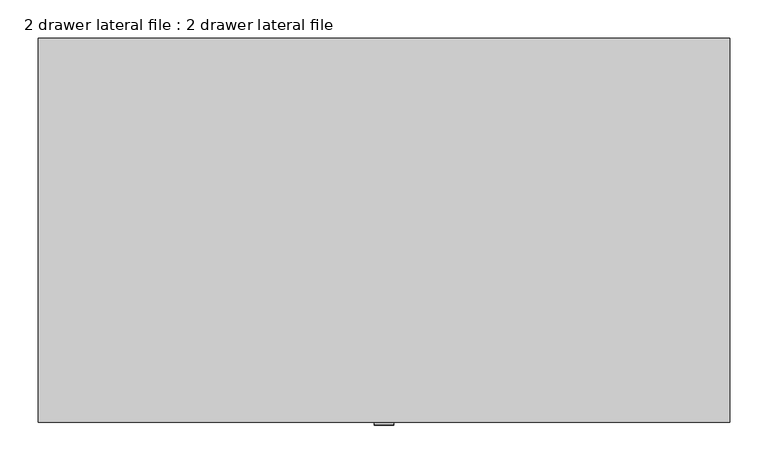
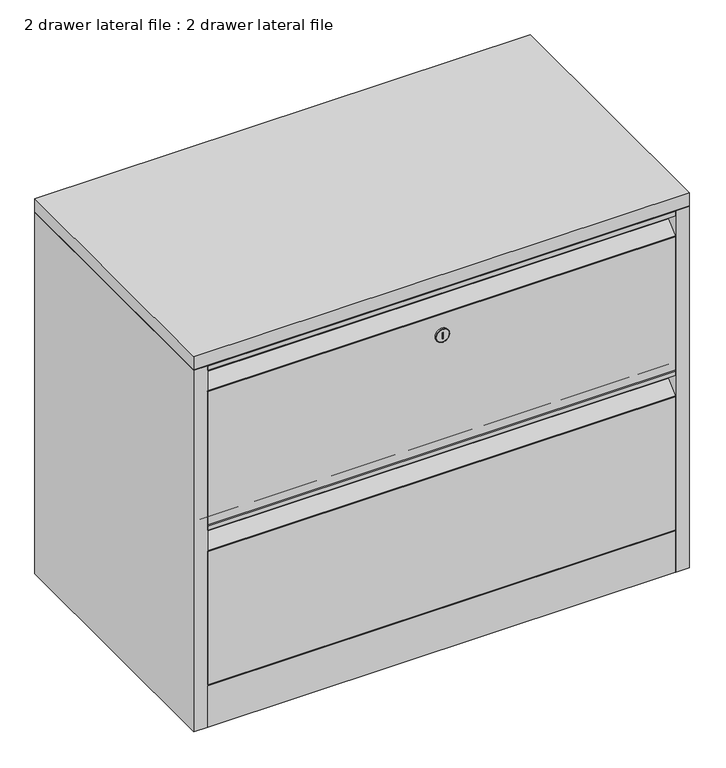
"""IFC4 building model written with IfcOpenShell, lengths in millimetres: furniture geometry, 2 drawer lateral file : 2 drawer lateral file."""

from ifc_helpers import new_model, si_unit, point, frame, frame_2d, origin, origin_with_axes, place, context, project, spatial, polyline, circle_curve, ellipse_curve, trimmed, segment, composite_curve, outline, extrude, source, transform, mapped, element, save
from ifc_brep_helpers import plane_surface, cylinder_surface, revolved_surface, advanced_brep


def furniture_2_drawer_lateral_file_2_drawer_lateral_file_d51224f1(model_context):
    return source(origin(), model_context, "Body", "SolidModel", [
        extrude(outline(composite_curve([segment(polyline([(-225.0, 695.125), (-225.0, 666.4983613)]), True, "CONTINUOUS"), segment(trimmed(circle_curve(frame_2d((-228.1021897, 666.4983613)), 3.1021897), [point((-225.0, 666.4983613))], [point((-226.0167258, 664.2017504))], False, "CARTESIAN"), True, "CONTINUOUS"), segment(polyline([(-226.0167258, 664.2017504), (-247.3097129, 644.866409)]), True, "CONTINUOUS"), segment(trimmed(circle_curve(frame_2d((-245.8938261, 643.3071678)), 2.1061739), [point((-247.3097129, 644.866409))], [point((-248.0, 643.3071678))], True, "CARTESIAN"), True, "CONTINUOUS"), segment(polyline([(-248.0, 643.3071678), (-248.0, 390.925), (-225.0, 390.925), (-225.0, 388.925), (-250.0, 388.925), (-250.0, 644.318895)]), True, "CONTINUOUS"), segment(trimmed(circle_curve(frame_2d((-248.1791457, 644.318895)), 1.8208543), [point((-250.0, 644.318895))], [point((-249.4032249, 645.6669085))], False, "CARTESIAN"), True, "CONTINUOUS"), segment(polyline([(-249.4032249, 645.6669085), (-227.5662702, 665.496206)]), True, "CONTINUOUS"), segment(trimmed(circle_curve(frame_2d((-228.727779, 666.7753141)), 1.727779), [point((-227.5662702, 665.496206))], [point((-227.0, 666.7753141))], True, "CARTESIAN"), True, "CONTINUOUS"), segment(polyline([(-227.0, 666.7753141), (-227.0, 691.0874619)]), True, "CONTINUOUS"), segment(trimmed(circle_curve(frame_2d((-229.0375381, 691.0874619)), 2.0375381), [point((-227.0, 691.0874619))], [point((-229.0375381, 693.125))], True, "CARTESIAN"), True, "CONTINUOUS"), segment(polyline([(-229.0375381, 693.125), (-248.0, 693.125), (-248.0, 685.125), (-250.0, 685.125), (-250.0, 693.2644549)]), True, "CONTINUOUS"), segment(trimmed(circle_curve(frame_2d((-248.1394549, 693.2644549)), 1.8605451), [point((-250.0, 693.2644549))], [point((-248.1394549, 695.125))], False, "CARTESIAN"), True, "CONTINUOUS"), segment(polyline([(-248.1394549, 695.125), (-225.0, 695.125)]), True, "CONTINUOUS")], self_intersect=False)), frame((-425.0, 0.0, 0.0), z_axis=(1.0, 0.0, 0.0), x_axis=(0.0, 1.0, 0.0)), (0.0, 0.0, 1.0), 850.0),
        extrude(outline(composite_curve([segment(polyline([(-225.0, 388.25), (-225.0, 359.6233613)]), True, "CONTINUOUS"), segment(trimmed(circle_curve(frame_2d((-228.1021897, 359.6233613)), 3.1021897), [point((-225.0, 359.6233613))], [point((-226.0167258, 357.3267504))], False, "CARTESIAN"), True, "CONTINUOUS"), segment(polyline([(-226.0167258, 357.3267504), (-247.3097129, 337.991409)]), True, "CONTINUOUS"), segment(trimmed(circle_curve(frame_2d((-245.8938261, 336.4321678)), 2.1061739), [point((-247.3097129, 337.991409))], [point((-248.0, 336.4321678))], True, "CARTESIAN"), True, "CONTINUOUS"), segment(polyline([(-248.0, 336.4321678), (-248.0, 84.05), (-225.0, 84.05), (-225.0, 82.05), (-250.0, 82.05), (-250.0, 337.443895)]), True, "CONTINUOUS"), segment(trimmed(circle_curve(frame_2d((-248.1791457, 337.443895)), 1.8208543), [point((-250.0, 337.443895))], [point((-249.4032249, 338.7919085))], False, "CARTESIAN"), True, "CONTINUOUS"), segment(polyline([(-249.4032249, 338.7919085), (-227.5662702, 358.621206)]), True, "CONTINUOUS"), segment(trimmed(circle_curve(frame_2d((-228.727779, 359.9003141)), 1.727779), [point((-227.5662702, 358.621206))], [point((-227.0, 359.9003141))], True, "CARTESIAN"), True, "CONTINUOUS"), segment(polyline([(-227.0, 359.9003141), (-227.0, 384.2124619)]), True, "CONTINUOUS"), segment(trimmed(circle_curve(frame_2d((-229.0375381, 384.2124619)), 2.0375381), [point((-227.0, 384.2124619))], [point((-229.0375381, 386.25))], True, "CARTESIAN"), True, "CONTINUOUS"), segment(polyline([(-229.0375381, 386.25), (-248.0, 386.25), (-248.0, 378.25), (-250.0, 378.25), (-250.0, 386.3894549)]), True, "CONTINUOUS"), segment(trimmed(circle_curve(frame_2d((-248.1394549, 386.3894549)), 1.8605451), [point((-250.0, 386.3894549))], [point((-248.1394549, 388.25))], False, "CARTESIAN"), True, "CONTINUOUS"), segment(polyline([(-248.1394549, 388.25), (-225.0, 388.25)]), True, "CONTINUOUS")], self_intersect=False)), frame((-425.0, 0.0, 0.0), z_axis=(1.0, 0.0, 0.0), x_axis=(0.0, 1.0, 0.0)), (0.0, 0.0, 1.0), 850.0),
        extrude(outline(polyline([(1.0273848, -250.0), (-0.9726152, -250.0), (-0.9726152, -150.0), (1.0273848, -150.0), (1.0273848, -250.0)])), frame((0.0, 0.0, 599.6206655), z_axis=(0.0, 0.0, 1.0), x_axis=(1.0, 0.0, 0.0)), (0.0, 0.0, 1.0), 12.0),
        advanced_brep(
        [(-11.5526635, -254.0, 605.5526635), (11.5526635, -254.0, 605.5526635), (1.0273848, -254.0, 611.6206655), (1.0273848, -254.0, 599.6206655), (-0.9726152, -254.0, 599.6206655), (-0.9726152, -254.0, 611.6206655), (-12.5526635, -250.0, 605.5526635), (12.5526635, -250.0, 605.5526635), (1.0273848, -250.0, 611.6206655), (-0.9726152, -250.0, 611.6206655), (-0.9726152, -250.0, 599.6206655), (1.0273848, -250.0, 599.6206655), (12.5526635, -253.0, 605.5526635), (-12.5526635, -253.0, 605.5526635)],
        [
            (0, 1, circle_curve(frame((0.0, -254.0, 605.5526635), z_axis=(0.0, -1.0, 0.0), x_axis=(1.0, 0.0, 0.0)), 11.5526635)),
            (1, 0, circle_curve(frame((0.0, -254.0, 605.5526635), z_axis=(0.0, -1.0, 0.0), x_axis=(-1.0, 0.0, 0.0)), 11.5526635)),
            (2, 3),
            (3, 4),
            (4, 5),
            (5, 2),
            (6, 7, circle_curve(frame((0.0, -250.0, 605.5526635), z_axis=(0.0, 1.0, 0.0), x_axis=(1.0, 0.0, 0.0)), 12.5526635)),
            (7, 6, circle_curve(frame((0.0, -250.0, 605.5526635), z_axis=(0.0, 1.0, 0.0), x_axis=(1.0, 0.0, 0.0)), 12.5526635)),
            (8, 9),
            (9, 10),
            (10, 11),
            (11, 8),
            (7, 12),
            (12, 13, circle_curve(frame((0.0, -253.0, 605.5526635), z_axis=(0.0, 1.0, 0.0), x_axis=(1.0, 0.0, 0.0)), 12.5526635)),
            (13, 6),
            (13, 12, circle_curve(frame((0.0, -253.0, 605.5526635), z_axis=(0.0, 1.0, 0.0), x_axis=(1.0, 0.0, 0.0)), 12.5526635)),
            (2, 8),
            (11, 3),
            (10, 4),
            (9, 5),
            (0, 13, circle_curve(frame((-11.5526635, -253.0, 605.5526635), z_axis=(0.0, 0.0, -1.0), x_axis=(-1.0, 0.0, 0.0)), 1.0)),
            (12, 1, circle_curve(frame((11.5526635, -253.0, 605.5526635), z_axis=(0.0, 0.0, -1.0), x_axis=(1.0, 0.0, 0.0)), 1.0)),
        ],
        [
            plane_surface(frame((12.5526635, -254.0, 605.5526635), z_axis=(0.0, -1.0, 0.0), x_axis=(0.0, 0.0, 1.0))),
            plane_surface(frame((12.5526635, -250.0, 605.5526635), z_axis=(0.0, 1.0, 0.0), x_axis=(0.0, 0.0, -1.0))),
            cylinder_surface(frame((0.0, -250.0, 605.5526635), z_axis=(0.0, -1.0, 0.0), x_axis=(1.0, 0.0, 0.0)), 12.5526635),
            plane_surface(frame((1.0273848, -254.0, 611.6206655), z_axis=(-1.0, 0.0, 0.0), x_axis=(0.0, 1.0, 0.0))),
            plane_surface(frame((1.0273848, -254.0, 599.6206655), z_axis=(0.0, 0.0, 1.0), x_axis=(0.0, 1.0, 0.0))),
            plane_surface(frame((-0.9726152, -254.0, 599.6206655), z_axis=(1.0, 0.0, 0.0), x_axis=(0.0, 1.0, 0.0))),
            plane_surface(frame((-0.9726152, -254.0, 611.6206655), z_axis=(0.0, 0.0, -1.0), x_axis=(0.0, 1.0, 0.0))),
            revolved_surface(trimmed(ellipse_curve(frame((11.5526635, -253.0, 605.5526635), z_axis=(0.0, 0.0, 1.0), x_axis=(1.0, 0.0, 0.0)), 1.0, 1.0), [point((11.5526635, -254.0, 605.5526635))], [point((12.5526635, -253.0, 605.5526635))], True, "CARTESIAN"), (0.0, -254.0, 605.5526635), (0.0, 1.0, 0.0)),
            revolved_surface(trimmed(ellipse_curve(frame((-11.5526635, -253.0, 605.5526635), z_axis=(0.0, 0.0, -1.0), x_axis=(-1.0, 0.0, 0.0)), 1.0, 1.0), [point((-11.5526635, -254.0, 605.5526635))], [point((-12.5526635, -253.0, 605.5526635))], True, "CARTESIAN"), (0.0, -254.0, 605.5526635), (0.0, 1.0, 0.0)),
        ],
        [
            (0, [[1, 2], [3, 4, 5, 6]]),
            (1, [[7, 8], [9, 10, 11, 12]]),
            (2, [[-8, 13, 14, 15]]),
            (2, [[-7, -15, 16, -13]]),
            (3, [[-3, 17, -12, 18]]),
            (4, [[-4, -18, -11, 19]]),
            (5, [[-5, -19, -10, 20]]),
            (6, [[-6, -20, -9, -17]]),
            (7, [[21, -14, 22, -1]]),
            (8, [[-21, -2, -22, -16]]),
        ],
    ),
        extrude(outline(polyline([(424.5, -150.0), (424.5, -250.0), (-424.5107425, -250.0), (-424.5107425, -150.0), (424.5, -150.0)])), origin_with_axes(), (0.0, 0.0, 1.0), 80.0),
        extrude(outline(polyline([(425.0, -150.0), (-425.0, -150.0), (-425.0, 225.0), (425.0, 225.0), (425.0, -150.0)])), origin_with_axes(), (0.0, 0.0, 1.0), 1.0),
        extrude(outline(polyline([(-425.0, 250.0), (-425.0, -250.0), (-450.0, -250.0), (-450.0, 250.0), (-425.0, 250.0)])), origin_with_axes(), (0.0, 0.0, 1.0), 694.6125),
        extrude(outline(polyline([(450.0, 250.0), (450.0, -250.0), (425.0, -250.0), (425.0, 250.0), (450.0, 250.0)])), origin_with_axes(), (0.0, 0.0, 1.0), 694.6125),
        extrude(outline(polyline([(425.0, 250.0), (425.0, 225.0), (-425.0, 225.0), (-425.0, 250.0), (425.0, 250.0)])), origin_with_axes(), (0.0, 0.0, 1.0), 695.0),
        extrude(outline(polyline([(450.0, 250.0), (450.0, -250.0), (-450.0, -250.0), (-450.0, 250.0), (450.0, 250.0)])), frame((0.0, 0.0, 695.0), z_axis=(0.0, 0.0, 1.0), x_axis=(1.0, 0.0, 0.0)), (0.0, 0.0, 1.0), 25.0),
    ])


if __name__ == "__main__":
    model = new_model("IFC4")
    model_context = context("Model", 3, world=origin())
    ifc_project = project(units=[si_unit("LENGTHUNIT", "METRE", prefix="MILLI")], contexts=[model_context])
    site = spatial("IfcSite", under=ifc_project)
    building = spatial("IfcBuilding", under=site)
    placement = place(None, origin())
    furniture_2_drawer_lateral_file_2_drawer_lateral_file_shape = furniture_2_drawer_lateral_file_2_drawer_lateral_file_d51224f1(model_context)
    element("IfcFurniture", 1, ObjectType="2 drawer lateral file : 2 drawer lateral file", at=placement, inside=building, context=model_context, shape_type="MappedRepresentation", body=[
        mapped(furniture_2_drawer_lateral_file_2_drawer_lateral_file_shape, transform((0.0, 0.0, 0.0), x_axis=(1.0, 0.0, 0.0), y_axis=(0.0, 1.0, 0.0), z_axis=(0.0, 0.0, 1.0))),
    ])
    save(model, "model.ifc")
